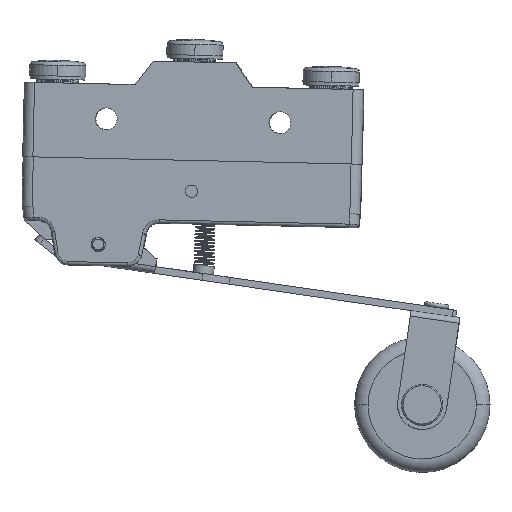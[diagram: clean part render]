
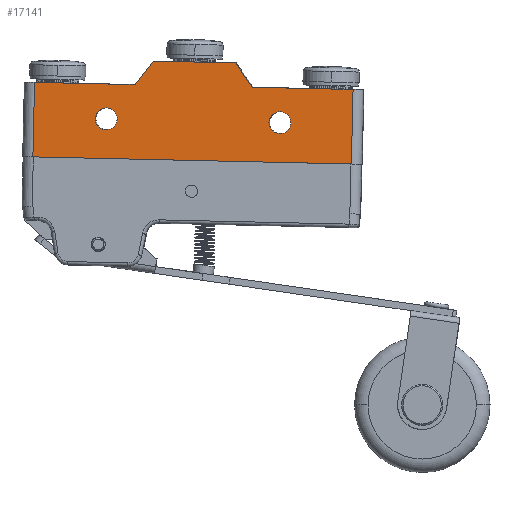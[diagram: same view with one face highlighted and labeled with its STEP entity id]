
A CAD part, top view. The second image highlights one B-rep face of the part: STEP entity #17141.
In plain terms, the highlighted planar face has unit normal (-0.006, -0.002, 1).
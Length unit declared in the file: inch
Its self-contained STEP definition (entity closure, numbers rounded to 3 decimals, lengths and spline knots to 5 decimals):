
#1709=DIRECTION('',(-1.,0.022,-0.006));
#1710=VECTOR('',#1709,14.7);
#1711=CARTESIAN_POINT('',(124.36123,-20.41016,3.93989));
#1712=LINE('',#1711,#1710);
#2622=DIRECTION('',(0.022,1.,0.002));
#2623=VECTOR('',#2622,10.9);
#2624=CARTESIAN_POINT('',(124.11736,-31.3074,3.9169));
#2625=LINE('',#2624,#2623);
#2631=DIRECTION('',(1.,-0.022,0.006));
#2632=VECTOR('',#2631,46.6);
#2633=CARTESIAN_POINT('',(77.52979,-30.26427,3.65194));
#2634=LINE('',#2633,#2632);
#2674=DIRECTION('',(-0.022,-1.,-0.002));
#2675=VECTOR('',#2674,10.9);
#2676=CARTESIAN_POINT('',(77.77366,-19.36702,3.67493));
#2677=LINE('',#2676,#2675);
#2754=DIRECTION('',(0.614,0.789,0.005));
#2755=VECTOR('',#2754,4.36005);
#2756=CARTESIAN_POINT('',(92.46974,-19.69608,3.75851));
#2757=LINE('',#2756,#2755);
#2758=DIRECTION('',(0.578,-0.816,0.002));
#2759=VECTOR('',#2758,4.36005);
#2760=CARTESIAN_POINT('',(107.14415,-16.52378,3.84891));
#2761=LINE('',#2760,#2759);
#2762=CARTESIAN_POINT('',(88.25673,-24.70301,3.72444));
#2763=DIRECTION('',(-0.006,-0.002,1.));
#2764=DIRECTION('',(1.,-0.022,0.006));
#2765=AXIS2_PLACEMENT_3D('',#2762,#2763,#2764);
#2767=CARTESIAN_POINT('',(88.25673,-24.70301,3.72444));
#2768=DIRECTION('',(-0.006,-0.002,1.));
#2769=DIRECTION('',(-1.,0.022,-0.006));
#2770=AXIS2_PLACEMENT_3D('',#2767,#2768,#2769);
#2772=CARTESIAN_POINT('',(113.64995,-25.27159,3.86886));
#2773=DIRECTION('',(-0.006,-0.002,1.));
#2774=DIRECTION('',(1.,-0.022,0.006));
#2775=AXIS2_PLACEMENT_3D('',#2772,#2773,#2774);
#2777=CARTESIAN_POINT('',(113.64995,-25.27159,3.86886));
#2778=DIRECTION('',(-0.006,-0.002,1.));
#2779=DIRECTION('',(-1.,0.022,-0.006));
#2780=AXIS2_PLACEMENT_3D('',#2777,#2778,#2779);
#2791=DIRECTION('',(-1.,0.022,-0.006));
#2792=VECTOR('',#2791,14.7);
#2793=CARTESIAN_POINT('',(92.46974,-19.69608,3.75851));
#2794=LINE('',#2793,#2792);
#3708=DIRECTION('',(-1.,0.022,-0.006));
#3709=VECTOR('',#3708,12.);
#3710=CARTESIAN_POINT('',(107.14415,-16.52378,3.84891));
#3711=LINE('',#3710,#3709);
#11700=CARTESIAN_POINT('',(112.05038,-25.23577,
3.85976));
#11701=VERTEX_POINT('',#11700);
#11702=CARTESIAN_POINT('',(115.24953,-25.3074,
3.87796));
#11703=VERTEX_POINT('',#11702);
#11704=CARTESIAN_POINT('',(89.8563,-24.73883,
3.73354));
#11705=CARTESIAN_POINT('',(86.65716,-24.6672,
3.71535));
#11706=VERTEX_POINT('',#11704);
#11707=VERTEX_POINT('',#11705);
#11708=CARTESIAN_POINT('',(77.77366,-19.36702,
3.67493));
#11709=CARTESIAN_POINT('',(77.52979,-30.26427,
3.65194));
#11710=VERTEX_POINT('',#11708);
#11711=VERTEX_POINT('',#11709);
#11712=CARTESIAN_POINT('',(92.46974,-19.69608,
3.75851));
#11713=VERTEX_POINT('',#11712);
#11714=CARTESIAN_POINT('',(95.14735,-16.25516,
3.78068));
#11715=VERTEX_POINT('',#11714);
#11716=CARTESIAN_POINT('',(107.14415,-16.52378,
3.84891));
#11717=VERTEX_POINT('',#11716);
#11718=CARTESIAN_POINT('',(109.66515,-20.0811,
3.85631));
#11719=VERTEX_POINT('',#11718);
#11720=CARTESIAN_POINT('',(124.36123,-20.41016,
3.93989));
#11721=VERTEX_POINT('',#11720);
#11722=CARTESIAN_POINT('',(124.11736,-31.3074,
3.9169));
#11723=VERTEX_POINT('',#11722);
#17111=CARTESIAN_POINT('',(100.98466,-23.58765,
3.79961));
#17112=DIRECTION('',(-0.006,-0.002,1.));
#17113=DIRECTION('',(1.,-0.022,0.006));
#17114=AXIS2_PLACEMENT_3D('',#17111,#17112,#17113);
#17115=PLANE('',#17114);
#17116=ORIENTED_EDGE('',*,*,#17006,.F.);
#17118=ORIENTED_EDGE('',*,*,#17117,.F.);
#17120=ORIENTED_EDGE('',*,*,#17119,.T.);
#17122=ORIENTED_EDGE('',*,*,#17121,.F.);
#17123=ORIENTED_EDGE('',*,*,#17104,.T.);
#17124=ORIENTED_EDGE('',*,*,#16805,.F.);
#17125=ORIENTED_EDGE('',*,*,#16947,.F.);
#17126=ORIENTED_EDGE('',*,*,#16962,.F.);
#17127=EDGE_LOOP('',(#17116,#17118,#17120,#17122,#17123,#17124,#17125,#17126));
#17128=FACE_OUTER_BOUND('',#17127,.F.);
#17130=ORIENTED_EDGE('',*,*,#17129,.T.);
#17132=ORIENTED_EDGE('',*,*,#17131,.T.);
#17133=EDGE_LOOP('',(#17130,#17132));
#17134=FACE_BOUND('',#17133,.F.);
#17136=ORIENTED_EDGE('',*,*,#17135,.T.);
#17138=ORIENTED_EDGE('',*,*,#17137,.T.);
#17139=EDGE_LOOP('',(#17136,#17138));
#17140=FACE_BOUND('',#17139,.F.);
#17141=ADVANCED_FACE('',(#17128,#17134,#17140),#17115,.T.);
#2766=CIRCLE('',#2765,1.6);
#2771=CIRCLE('',#2770,1.6);
#2776=CIRCLE('',#2775,1.6);
#2781=CIRCLE('',#2780,1.6);
#16805=EDGE_CURVE('',#11721,#11719,#1712,.T.);
#16947=EDGE_CURVE('',#11723,#11721,#2625,.T.);
#16962=EDGE_CURVE('',#11711,#11723,#2634,.T.);
#17006=EDGE_CURVE('',#11710,#11711,#2677,.T.);
#17104=EDGE_CURVE('',#11717,#11719,#2761,.T.);
#17117=EDGE_CURVE('',#11713,#11710,#2794,.T.);
#17119=EDGE_CURVE('',#11713,#11715,#2757,.T.);
#17121=EDGE_CURVE('',#11717,#11715,#3711,.T.);
#17129=EDGE_CURVE('',#11706,#11707,#2766,.T.);
#17131=EDGE_CURVE('',#11707,#11706,#2771,.T.);
#17135=EDGE_CURVE('',#11703,#11701,#2776,.T.);
#17137=EDGE_CURVE('',#11701,#11703,#2781,.T.);
